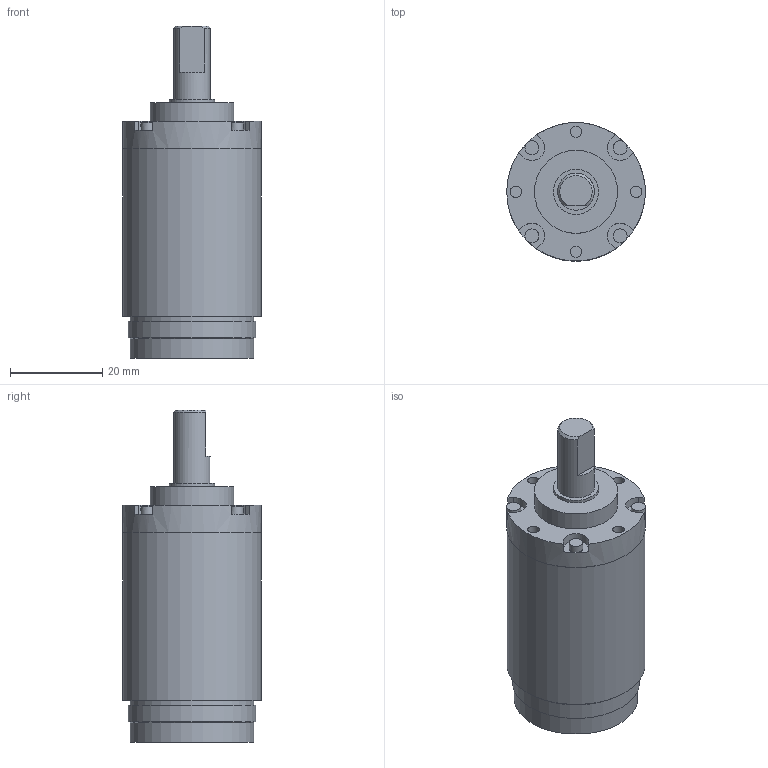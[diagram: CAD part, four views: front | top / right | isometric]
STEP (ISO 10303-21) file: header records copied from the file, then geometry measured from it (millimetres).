
FILE_DESCRIPTION(/* description */ (''),/* implementation_level */ '2;1');
FILE_NAME(/* name */ '30-1_5.stp',/* time_stamp */ '2016-09-07T10:18:32+02:00',/* author */ ('DR. FRITZ FAULHABER GmbH & Co. KG'),/* organization */ ('DR. FRITZ FAULHABER GmbH & Co. KG'),/* preprocessor_version */ 'ST-DEVELOPER v16',/* originating_system */ 'SIEMENS PLM Software NX 10.0',/* authorisation */ '');
FILE_SCHEMA (('AUTOMOTIVE_DESIGN { 1 0 10303 214 3 1 1 1 }'));
Length unit declared in the file: millimetre
Products named in the file (1): H00000176_A
Bounding box: 30 x 30 x 71.9 mm (x, y, z)
Volume: 36116.4 mm3; surface area: 7315.9 mm2
Topology: 1 solids, 1 shells, 62 faces, 153 edges, 119 vertices
Faces by surface type: plane 35, cylinder 25, cone 2
Full cylindrical faces by diameter (mm): 2.5 x4, 3 x4, 8 x1, 9.8 x1, 11.88 x1, 12.08 x1, 18 x1, 21.5 x1, 22.05 x1, 26.8 x2, 27.6 x1, 29.99 x1, 30 x2
Entity records: 1751 total; most frequent: DIRECTION 325, CARTESIAN_POINT 272, ORIENTED_EDGE 202, AXIS2_PLACEMENT_3D 140, EDGE_CURVE 101, EDGE_LOOP 99, VERTEX_POINT 78, CIRCLE 77
